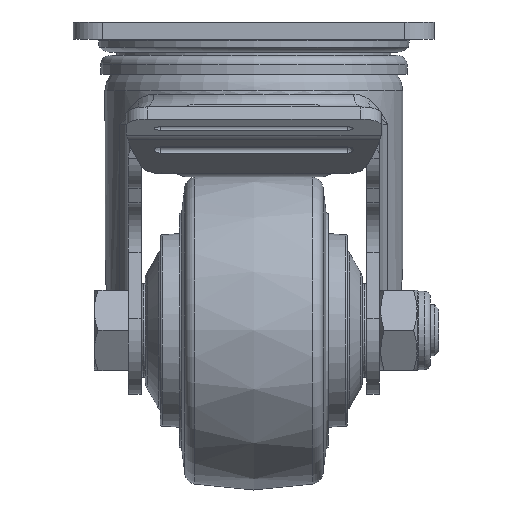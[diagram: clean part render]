
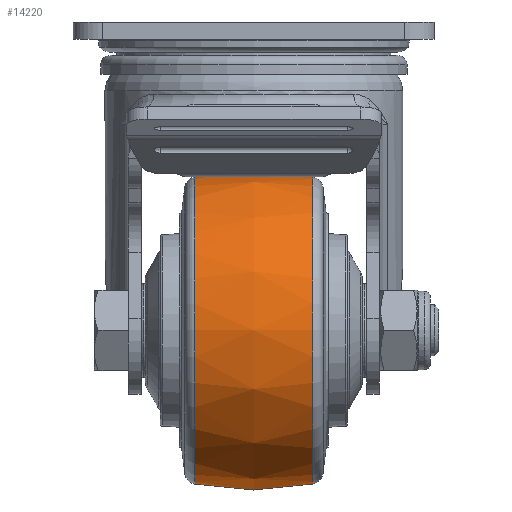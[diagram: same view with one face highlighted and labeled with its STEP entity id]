
A CAD part, front view. The second image highlights one B-rep face of the part: STEP entity #14220.
In plain terms, the highlighted free-form (B-spline) face has degree [2, 2] with [3, 9] control points.
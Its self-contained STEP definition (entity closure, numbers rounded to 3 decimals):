
#3202=(
BOUNDED_CURVE()
B_SPLINE_CURVE(2,(#19847,#19848,#19849),.UNSPECIFIED.,.F.,.F.)
B_SPLINE_CURVE_WITH_KNOTS((3,3),(-0.2,0.2),
 .UNSPECIFIED.)
CURVE()
GEOMETRIC_REPRESENTATION_ITEM()
RATIONAL_B_SPLINE_CURVE((1.,0.98,1.))
REPRESENTATION_ITEM('')
);
#3257=(
BOUNDED_SURFACE()
B_SPLINE_SURFACE(2,2,((#19819,#19820,#19821,#19822,#19823,#19824,#19825,
#19826,#19827),(#19828,#19829,#19830,#19831,#19832,#19833,#19834,#19835,
#19836),(#19837,#19838,#19839,#19840,#19841,#19842,#19843,#19844,#19845)),
 .UNSPECIFIED.,.F.,.T.,.F.)
B_SPLINE_SURFACE_WITH_KNOTS((3,3),(3,2,2,2,3),(-0.2,0.2),
(-3.142,-1.571,0.,1.571,3.142),
 .UNSPECIFIED.)
GEOMETRIC_REPRESENTATION_ITEM()
RATIONAL_B_SPLINE_SURFACE(((1.,0.707,1.,0.707,1.,
0.707,1.,0.707,1.),(0.98,0.693,
0.98,0.693,0.98,0.693,
0.98,0.693,0.98),(1.,0.707,
1.,0.707,1.,0.707,1.,0.707,1.)))
REPRESENTATION_ITEM('')
SURFACE()
);
#4366=FACE_OUTER_BOUND('',#5202,.T.);
#5202=EDGE_LOOP('',(#10053,#10054,#10055,#10056,#10057,#10058));
#6189=CIRCLE('',#15080,36.111);
#6190=CIRCLE('',#15081,36.111);
#6191=CIRCLE('',#15082,36.111);
#6192=CIRCLE('',#15083,36.111);
#6639=VERTEX_POINT('',#19815);
#6640=VERTEX_POINT('',#19816);
#6641=VERTEX_POINT('',#19846);
#6642=VERTEX_POINT('',#19850);
#8008=EDGE_CURVE('',#6639,#6640,#6189,.T.);
#8009=EDGE_CURVE('',#6640,#6639,#6190,.T.);
#8010=EDGE_CURVE('',#6640,#6641,#3202,.T.);
#8011=EDGE_CURVE('',#6642,#6641,#6191,.T.);
#8012=EDGE_CURVE('',#6641,#6642,#6192,.T.);
#10053=ORIENTED_EDGE('',*,*,#8008,.F.);
#10054=ORIENTED_EDGE('',*,*,#8009,.F.);
#10055=ORIENTED_EDGE('',*,*,#8010,.T.);
#10056=ORIENTED_EDGE('',*,*,#8011,.F.);
#10057=ORIENTED_EDGE('',*,*,#8012,.F.);
#10058=ORIENTED_EDGE('',*,*,#8010,.F.);
#14220=ADVANCED_FACE('',(#4366),#3257,.F.);
#15080=AXIS2_PLACEMENT_3D('',#19817,#16333,#16334);
#15081=AXIS2_PLACEMENT_3D('',#19818,#16335,#16336);
#15082=AXIS2_PLACEMENT_3D('',#19851,#16337,#16338);
#15083=AXIS2_PLACEMENT_3D('',#19852,#16339,#16340);
#16333=DIRECTION('center_axis',(1.,0.,0.));
#16334=DIRECTION('ref_axis',(0.,-1.,0.));
#16335=DIRECTION('center_axis',(1.,0.,0.));
#16336=DIRECTION('ref_axis',(0.,-1.,0.));
#16337=DIRECTION('center_axis',(-1.,0.,0.));
#16338=DIRECTION('ref_axis',(0.,-1.,0.));
#16339=DIRECTION('center_axis',(-1.,0.,0.));
#16340=DIRECTION('ref_axis',(0.,-1.,0.));
#19815=CARTESIAN_POINT('',(13.876,-1.889,-72.5));
#19816=CARTESIAN_POINT('',(13.876,-38.,-36.389));
#19817=CARTESIAN_POINT('Origin',(13.876,-38.,-72.5));
#19818=CARTESIAN_POINT('Origin',(13.876,-38.,-72.5));
#19819=CARTESIAN_POINT('Ctrl Pts',(-13.876,-38.,-36.389));
#19820=CARTESIAN_POINT('Ctrl Pts',(-13.876,-74.111,-36.389));
#19821=CARTESIAN_POINT('Ctrl Pts',(-13.876,-74.111,-72.5));
#19822=CARTESIAN_POINT('Ctrl Pts',(-13.876,-74.111,-108.611));
#19823=CARTESIAN_POINT('Ctrl Pts',(-13.876,-38.,-108.611));
#19824=CARTESIAN_POINT('Ctrl Pts',(-13.876,-1.889,-108.611));
#19825=CARTESIAN_POINT('Ctrl Pts',(-13.876,-1.889,-72.5));
#19826=CARTESIAN_POINT('Ctrl Pts',(-13.876,-1.889,-36.389));
#19827=CARTESIAN_POINT('Ctrl Pts',(-13.876,-38.,-36.389));
#19828=CARTESIAN_POINT('Ctrl Pts',(0.,-38.,
-33.583));
#19829=CARTESIAN_POINT('Ctrl Pts',(0.,-76.917,
-33.583));
#19830=CARTESIAN_POINT('Ctrl Pts',(0.,-76.917,
-72.5));
#19831=CARTESIAN_POINT('Ctrl Pts',(0.,-76.917,
-111.417));
#19832=CARTESIAN_POINT('Ctrl Pts',(0.,-38.,
-111.417));
#19833=CARTESIAN_POINT('Ctrl Pts',(0.,0.917,
-111.417));
#19834=CARTESIAN_POINT('Ctrl Pts',(0.,0.917,
-72.5));
#19835=CARTESIAN_POINT('Ctrl Pts',(0.,0.917,
-33.583));
#19836=CARTESIAN_POINT('Ctrl Pts',(0.,-38.,
-33.583));
#19837=CARTESIAN_POINT('Ctrl Pts',(13.876,-38.,-36.389));
#19838=CARTESIAN_POINT('Ctrl Pts',(13.876,-74.111,-36.389));
#19839=CARTESIAN_POINT('Ctrl Pts',(13.876,-74.111,-72.5));
#19840=CARTESIAN_POINT('Ctrl Pts',(13.876,-74.111,-108.611));
#19841=CARTESIAN_POINT('Ctrl Pts',(13.876,-38.,-108.611));
#19842=CARTESIAN_POINT('Ctrl Pts',(13.876,-1.889,-108.611));
#19843=CARTESIAN_POINT('Ctrl Pts',(13.876,-1.889,-72.5));
#19844=CARTESIAN_POINT('Ctrl Pts',(13.876,-1.889,-36.389));
#19845=CARTESIAN_POINT('Ctrl Pts',(13.876,-38.,-36.389));
#19846=CARTESIAN_POINT('',(-13.876,-38.,-36.389));
#19847=CARTESIAN_POINT('Ctrl Pts',(13.876,-38.,-36.389));
#19848=CARTESIAN_POINT('Ctrl Pts',(0.,-38.,
-33.583));
#19849=CARTESIAN_POINT('Ctrl Pts',(-13.876,-38.,-36.389));
#19850=CARTESIAN_POINT('',(-13.876,-1.889,-72.5));
#19851=CARTESIAN_POINT('Origin',(-13.876,-38.,-72.5));
#19852=CARTESIAN_POINT('Origin',(-13.876,-38.,-72.5));
